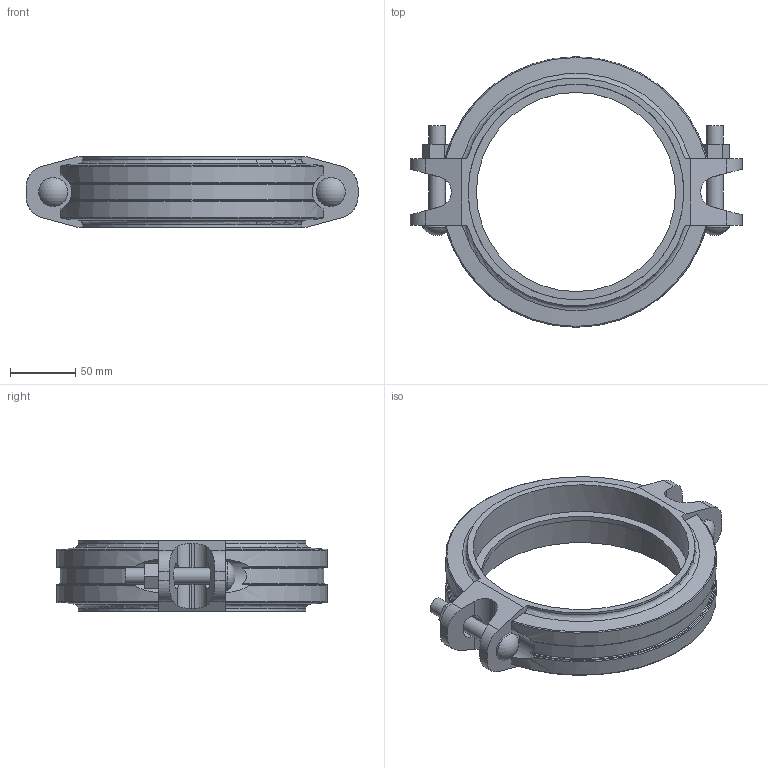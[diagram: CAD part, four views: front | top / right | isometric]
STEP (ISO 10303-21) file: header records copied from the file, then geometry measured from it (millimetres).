
FILE_DESCRIPTION(/* description */ ('VIC STYLE 005H FIRELOCK RIGID COUPLING','CAx-IF Rec.Pracs.---Representation and Presentation of Product Manufacturing Information (PMI)---4.0---2014-10-13'),/* implementation_level */ '2;1');
FILE_NAME(/* name */ 'C:\Users\Vjadhav\Desktop\CAD for Inventor\1\Coupling bolt thickness\005H\STEP\Victaulic_FP-FireLock_Coupling Rigid_Style 005H (OGS)\Victaulic_FP-FireLock_Coupling Rigid_Style 005H (OGS)_06.0 (165.1) (150).stp',/* time_stamp */ '2022-03-28T11:25:17+06:00',/* author */ ('jheald'),/* organization */ ('Victaulic'),/* preprocessor_version */ 'ST-DEVELOPER v17.2',/* originating_system */ 'Autodesk Inventor 2019',/* authorisation */ '');
FILE_SCHEMA (('AP242_MANAGED_MODEL_BASED_3D_ENGINEERING_MIM_LF { 1 0 10303 442 1 1 4 }'));
Length unit declared in the file: inch
Products named in the file (1): 005H-06.0 (165.1)
Bounding box: 254 x 207.01 x 54.1 mm (x, y, z)
Volume: 597257 mm3; surface area: 110031.3 mm2
Topology: 1 solids, 1 shells, 121 faces, 357 edges, 242 vertices
Faces by surface type: plane 56, cylinder 43, torus 16, cone 4, sphere 2
Full cylindrical faces by diameter (mm): 12.7 x4, 22.225 x2, 152.4 x1, 165.1 x2
Entity records: 4932 total; most frequent: CARTESIAN_POINT 1422, ORIENTED_EDGE 714, DIRECTION 685, EDGE_CURVE 357, AXIS2_PLACEMENT_3D 253, VERTEX_POINT 242, LINE 179, VECTOR 179
